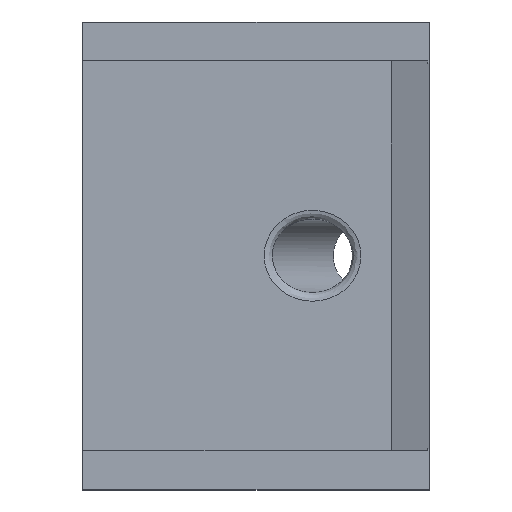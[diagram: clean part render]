
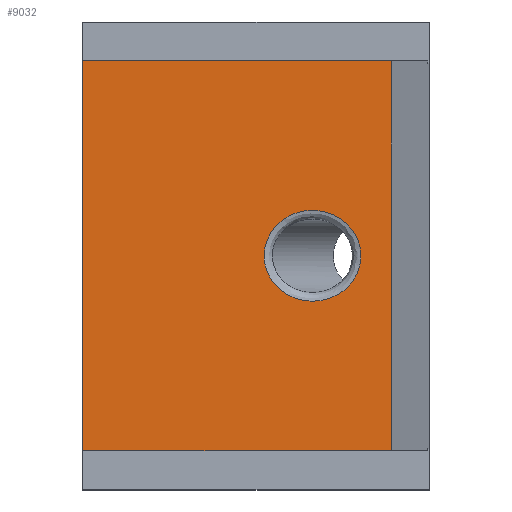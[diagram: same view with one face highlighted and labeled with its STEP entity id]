
A CAD part, top view. The second image highlights one B-rep face of the part: STEP entity #9032.
In plain terms, the highlighted planar face has unit normal (0, 0, 1).
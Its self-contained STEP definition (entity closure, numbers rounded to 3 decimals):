
#142 = DIRECTION ( 'NONE',  ( 0., 0., -1. ) ) ;
#164 = CARTESIAN_POINT ( 'NONE',  ( 35.632, -22.5, 20. ) ) ;
#182 = ORIENTED_EDGE ( 'NONE', *, *, #2184, .T. ) ;
#484 = LINE ( 'NONE', #10140, #5875 ) ;
#507 = CARTESIAN_POINT ( 'NONE',  ( 32.111, 0., 20. ) ) ;
#1417 = EDGE_CURVE ( 'NONE', #5542, #2381, #484, .T. ) ;
#1551 = LINE ( 'NONE', #4104, #2972 ) ;
#1649 = PLANE ( 'NONE',  #8836 ) ;
#2003 = EDGE_CURVE ( 'NONE', #5911, #5542, #8869, .T. ) ;
#2184 = EDGE_CURVE ( 'NONE', #8411, #2381, #10299, .T. ) ;
#2381 = VERTEX_POINT ( 'NONE', #164 ) ;
#2425 = CARTESIAN_POINT ( 'NONE',  ( 0., 22.5, 20. ) ) ;
#2819 = VECTOR ( 'NONE', #6243, 1000. ) ;
#2972 = VECTOR ( 'NONE', #5645, 1000. ) ;
#3095 = ORIENTED_EDGE ( 'NONE', *, *, #2003, .F. ) ;
#3256 = EDGE_LOOP ( 'NONE', ( #182, #5017, #3095, #7182 ) ) ;
#3348 = EDGE_CURVE ( 'NONE', #5911, #8411, #1551, .T. ) ;
#4104 = CARTESIAN_POINT ( 'NONE',  ( 0., 22.5, 20. ) ) ;
#4199 = FACE_BOUND ( 'NONE', #5758, .T. ) ;
#4228 =( BOUNDED_CURVE ( )  B_SPLINE_CURVE ( 3, ( #507, #5465, #7011, #7855, #4618, #5410, #9472 ),
 .UNSPECIFIED., .T., .F. ) 
 B_SPLINE_CURVE_WITH_KNOTS ( ( 4, 3, 4 ),
 ( 0., 3.142, 6.283 ),
 .UNSPECIFIED. ) 
 CURVE ( )  GEOMETRIC_REPRESENTATION_ITEM ( )  RATIONAL_B_SPLINE_CURVE ( ( 1., 0.333, 0.333, 1., 0.333, 0.333, 1. ) ) 
 REPRESENTATION_ITEM ( '' )  );
#4618 = CARTESIAN_POINT ( 'NONE',  ( 20.937, 10.5, 20. ) ) ;
#4732 = ORIENTED_EDGE ( 'NONE', *, *, #8351, .T. ) ;
#5017 = ORIENTED_EDGE ( 'NONE', *, *, #1417, .F. ) ;
#5410 = CARTESIAN_POINT ( 'NONE',  ( 32.111, 10.5, 20. ) ) ;
#5465 = CARTESIAN_POINT ( 'NONE',  ( 32.111, -10.5, 20. ) ) ;
#5542 = VERTEX_POINT ( 'NONE', #8994 ) ;
#5549 = VERTEX_POINT ( 'NONE', #5765 ) ;
#5645 = DIRECTION ( 'NONE',  ( 0., -1., 0. ) ) ;
#5758 = EDGE_LOOP ( 'NONE', ( #4732 ) ) ;
#5765 = CARTESIAN_POINT ( 'NONE',  ( 32.111, 0., 20. ) ) ;
#5875 = VECTOR ( 'NONE', #9554, 1000. ) ;
#5911 = VERTEX_POINT ( 'NONE', #2425 ) ;
#6243 = DIRECTION ( 'NONE',  ( 1., 0., 0. ) ) ;
#6595 = FACE_OUTER_BOUND ( 'NONE', #3256, .T. ) ;
#7011 = CARTESIAN_POINT ( 'NONE',  ( 20.937, -10.5, 20. ) ) ;
#7182 = ORIENTED_EDGE ( 'NONE', *, *, #3348, .T. ) ;
#7235 = VECTOR ( 'NONE', #8113, 1000. ) ;
#7440 = CARTESIAN_POINT ( 'NONE',  ( 0., 22.5, 20. ) ) ;
#7855 = CARTESIAN_POINT ( 'NONE',  ( 20.937, 0., 20. ) ) ;
#8113 = DIRECTION ( 'NONE',  ( 1., 0., 0. ) ) ;
#8273 = CARTESIAN_POINT ( 'NONE',  ( 0., 22.5, 20. ) ) ;
#8351 = EDGE_CURVE ( 'NONE', #5549, #5549, #4228, .T. ) ;
#8411 = VERTEX_POINT ( 'NONE', #9525 ) ;
#8595 = CARTESIAN_POINT ( 'NONE',  ( 0., -22.5, 20. ) ) ;
#8836 = AXIS2_PLACEMENT_3D ( 'NONE', #7440, #142, #9856 ) ;
#8869 = LINE ( 'NONE', #8273, #7235 ) ;
#8994 = CARTESIAN_POINT ( 'NONE',  ( 35.632, 22.5, 20. ) ) ;
#9032 = ADVANCED_FACE ( 'NONE', ( #4199, #6595 ), #1649, .F. ) ;
#9472 = CARTESIAN_POINT ( 'NONE',  ( 32.111, 0., 20. ) ) ;
#9525 = CARTESIAN_POINT ( 'NONE',  ( 0., -22.5, 20. ) ) ;
#9554 = DIRECTION ( 'NONE',  ( 0., -1., 0. ) ) ;
#9856 = DIRECTION ( 'NONE',  ( -1., 0., 0. ) ) ;
#10140 = CARTESIAN_POINT ( 'NONE',  ( 35.632, 22.5, 20. ) ) ;
#10299 = LINE ( 'NONE', #8595, #2819 ) ;
